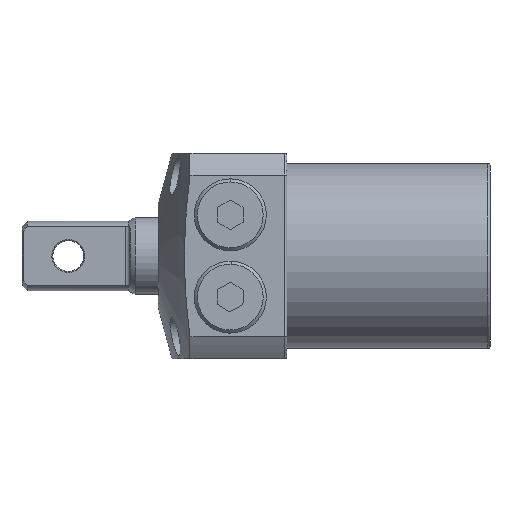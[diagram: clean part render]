
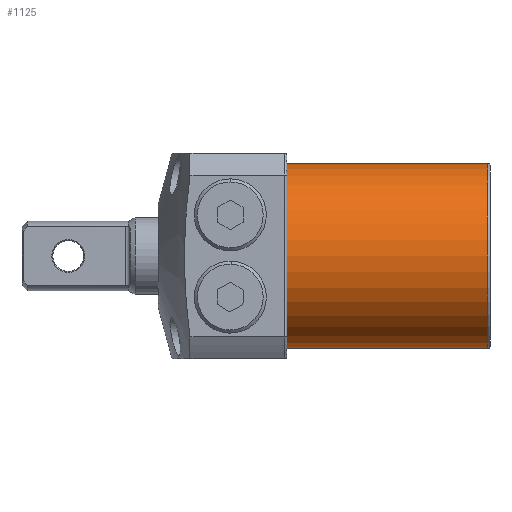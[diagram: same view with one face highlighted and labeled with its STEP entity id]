
A CAD part, left-side view. The second image highlights one B-rep face of the part: STEP entity #1125.
In plain terms, the highlighted cylindrical face has radius 18 mm (diameter 36 mm), a partial arc.
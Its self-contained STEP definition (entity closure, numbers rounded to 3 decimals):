
#145 = EDGE_LOOP ( 'NONE', ( #1290, #1291, #1292, #1293 ) ) ;
#522 = VERTEX_POINT ( 'NONE', #2633 ) ;
#537 = VERTEX_POINT ( 'NONE', #2648 ) ;
#540 = VERTEX_POINT ( 'NONE', #2651 ) ;
#541 = VERTEX_POINT ( 'NONE', #2652 ) ;
#791 = EDGE_CURVE ( 'NONE', #522, #540, #3105, .T. ) ;
#794 = EDGE_CURVE ( 'NONE', #537, #541, #3114, .T. ) ;
#999 = EDGE_CURVE ( 'NONE', #541, #540, #3440, .T. ) ;
#1110 = EDGE_CURVE ( 'NONE', #522, #537, #5207, .T. ) ;
#1125 = ADVANCED_FACE ( 'NONE', ( #5077 ), #5080, .T. ) ;
#1290 = ORIENTED_EDGE ( 'NONE', *, *, #791, .F. ) ;
#1291 = ORIENTED_EDGE ( 'NONE', *, *, #1110, .T. ) ;
#1292 = ORIENTED_EDGE ( 'NONE', *, *, #794, .T. ) ;
#1293 = ORIENTED_EDGE ( 'NONE', *, *, #999, .T. ) ;
#2633 = CARTESIAN_POINT ( 'NONE',  ( 39.1, 0., -18. ) ) ;
#2648 = CARTESIAN_POINT ( 'NONE',  ( 39.1, 0., 18. ) ) ;
#2651 = CARTESIAN_POINT ( 'NONE',  ( 0., 0., -18. ) ) ;
#2652 = CARTESIAN_POINT ( 'NONE',  ( 0., 0., 18. ) ) ;
#3105 = LINE ( 'NONE', #3106, #5661 ) ;
#3106 = CARTESIAN_POINT ( 'NONE',  ( 39.5, 0., -18. ) ) ;
#3113 = DIRECTION ( 'NONE',  ( -1., 0., 0. ) ) ;
#3114 = LINE ( 'NONE', #3115, #5666 ) ;
#3115 = CARTESIAN_POINT ( 'NONE',  ( 39.5, 0., 18. ) ) ;
#3123 = DIRECTION ( 'NONE',  ( -1., 0., 0. ) ) ;
#3440 = CIRCLE ( 'NONE', #3443, 18. ) ;
#3443 = AXIS2_PLACEMENT_3D ( 'NONE', #4416, #4417, #4418 ) ;
#4416 = CARTESIAN_POINT ( 'NONE',  ( 0., 0., 0. ) ) ;
#4417 = DIRECTION ( 'NONE',  ( 1., 0., 0. ) ) ;
#4418 = DIRECTION ( 'NONE',  ( 0., 0., -1. ) ) ;
#5013 = CARTESIAN_POINT ( 'NONE',  ( 39.1, 0., 0. ) ) ;
#5014 = DIRECTION ( 'NONE',  ( -1., 0., 0. ) ) ;
#5015 = DIRECTION ( 'NONE',  ( 0., 0., -1. ) ) ;
#5068 = DIRECTION ( 'NONE',  ( -1., 0., 0. ) ) ;
#5077 = FACE_OUTER_BOUND ( 'NONE', #145, .T. ) ;
#5079 = CARTESIAN_POINT ( 'NONE',  ( 39.5, 0., 0. ) ) ;
#5080 = CYLINDRICAL_SURFACE ( 'NONE', #5233, 18. ) ;
#5081 = DIRECTION ( 'NONE',  ( 0., 0., 1. ) ) ;
#5207 = CIRCLE ( 'NONE', #5210, 18. ) ;
#5210 = AXIS2_PLACEMENT_3D ( 'NONE', #5013, #5014, #5015 ) ;
#5233 = AXIS2_PLACEMENT_3D ( 'NONE', #5079, #5068, #5081 ) ;
#5661 = VECTOR ( 'NONE', #3113, 1000. ) ;
#5666 = VECTOR ( 'NONE', #3123, 1000. ) ;
